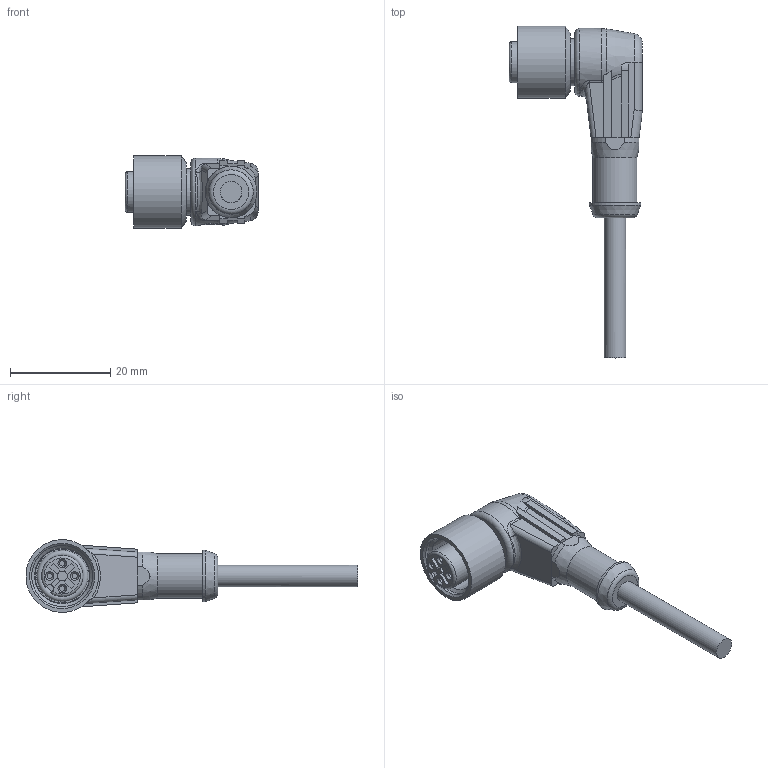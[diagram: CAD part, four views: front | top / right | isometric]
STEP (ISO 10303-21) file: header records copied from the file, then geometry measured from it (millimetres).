
FILE_DESCRIPTION( ( 'Unknown' ), '1' );
FILE_NAME( 'C:/Users/txr10011/Documents/1_in Bearbeitung/151016/Hüllmodelle/RKWT_LED_A_4-3-224_xxM.stp', 'Unknown', ( 'Unknown' ), ( 'Unknown' ), 'PSStep 17.0.49', 'Unknown', ' ' );
FILE_SCHEMA( ( 'AUTOMOTIVE_DESIGN { 1 0 10303 214 1 1 1 1 }' ) );
Length unit declared in the file: millimetre
Products named in the file (1): Umspr_Mit_LED
Bounding box: 26.7 x 66.18 x 14.44 mm (x, y, z)
Volume: 5718.1 mm3; surface area: 3352 mm2
Topology: 1 solids, 1 shells, 181 faces, 469 edges, 308 vertices
Faces by surface type: plane 108, cylinder 35, cone 12, extrusion 11, bspline 9, torus 6
Full cylindrical faces by diameter (mm): 1.1 x4, 2 x1, 4.3 x1, 8.8 x1, 9.4 x1, 10.3 x1, 10.8 x1, 11.05 x1, 12.2 x1, 13.5 x1, 14.5 x1
Entity records: 9685 total; most frequent: CARTESIAN_POINT 4078, ORIENTED_EDGE 846, DIRECTION 799, EDGE_CURVE 423, VERTEX_POINT 293, AXIS2_PLACEMENT_3D 272, VECTOR 255, LINE 244
